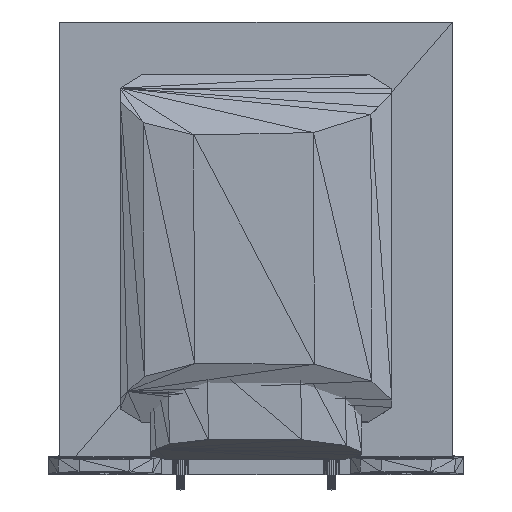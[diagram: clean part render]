
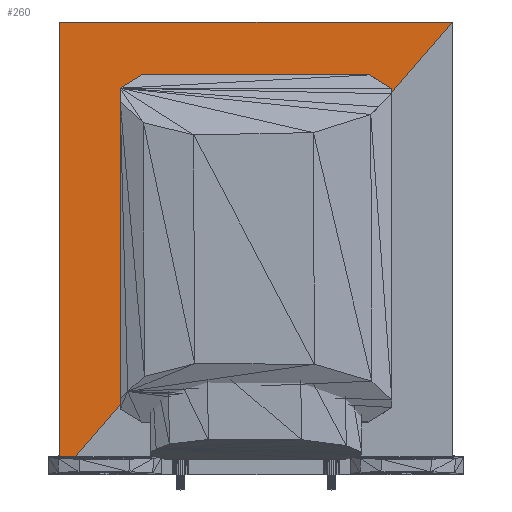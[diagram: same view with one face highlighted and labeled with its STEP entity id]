
A CAD part, front view. The second image highlights one B-rep face of the part: STEP entity #260.
In plain terms, the highlighted planar face has unit normal (0, -1, 0).
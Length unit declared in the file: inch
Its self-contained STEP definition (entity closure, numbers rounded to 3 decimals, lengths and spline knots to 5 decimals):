
#66=CARTESIAN_POINT('',(-1.3,-0.57,-0.00012));
#67=VERTEX_POINT('',#66);
#167=CARTESIAN_POINT('',(-1.3,-0.57061,2.99988));
#168=VERTEX_POINT('',#167);
#190=CARTESIAN_POINT('',(-1.3,-0.57,-0.00012));
#191=DIRECTION('',(0.,0.,1.));
#192=VECTOR('',#191,3.);
#193=LINE('',#190,#192);
#194=EDGE_CURVE('',#67,#168,#193,.T.);
#206=CARTESIAN_POINT('',(1.3,-0.57061,2.99988));
#207=VERTEX_POINT('',#206);
#240=CARTESIAN_POINT('',(1.3,-0.57061,2.99988));
#241=DIRECTION('',(0.,1.,0.));
#242=DIRECTION('',(1.,0.,0.));
#243=AXIS2_PLACEMENT_3D('',#240,#241,#242);
#244=PLANE('',#243);
#245=CARTESIAN_POINT('',(-1.3,-0.57061,2.99988));
#246=DIRECTION('',(1.,0.,-0.));
#247=VECTOR('',#246,2.6);
#248=LINE('',#245,#247);
#249=EDGE_CURVE('',#168,#207,#248,.T.);
#250=ORIENTED_EDGE('',*,*,#249,.F.);
#251=ORIENTED_EDGE('',*,*,#194,.F.);
#252=CARTESIAN_POINT('',(-1.3,-0.57,-0.00012));
#253=DIRECTION('',(0.655,0.,0.756));
#254=VECTOR('',#253,3.96989);
#255=LINE('',#252,#254);
#256=EDGE_CURVE('',#67,#207,#255,.T.);
#257=ORIENTED_EDGE('',*,*,#256,.T.);
#258=EDGE_LOOP('',(#250,#251,#257));
#259=FACE_BOUND('',#258,.T.);
#260=ADVANCED_FACE('',(#259),#244,.F.);
